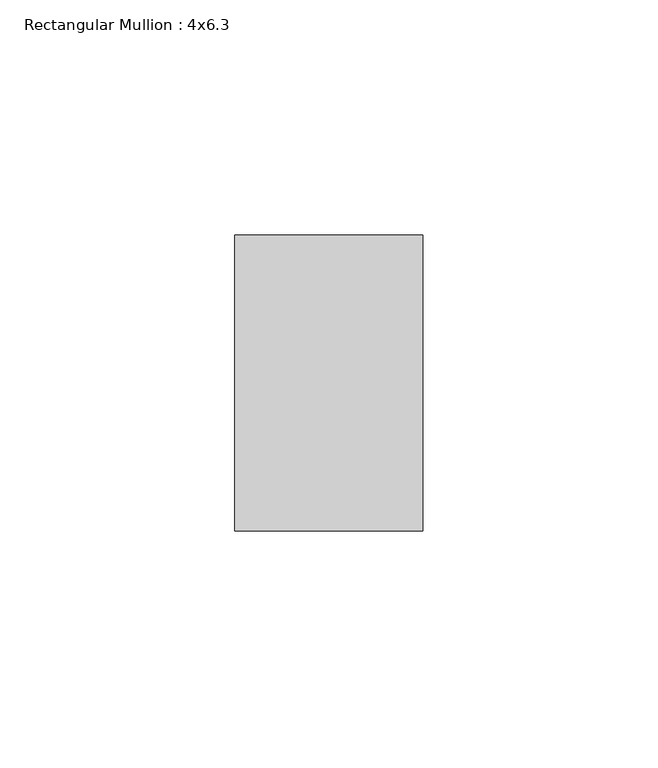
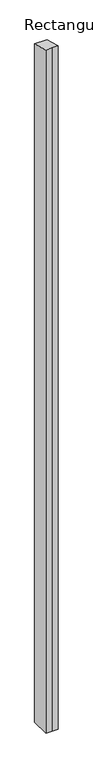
"""IFC4 building model written with IfcOpenShell, lengths in millimetres: member geometry, Rectangular Mullion : 4x6.3."""

import ifcopenshell
import ifcopenshell.guid

model = None  # the IFC model being written
_history = None  # IfcOwnerHistory: only IFC2X3 demands one
_inside = {}  # id of a spatial element -> (the spatial element, [elements in it])
_under = {}  # id of a project, library or spatial element -> (it, [spatial elements below it])
_declared = {}  # id of a project -> (the project, [libraries it declares])
_typed = {}  # id of a type object -> (the type object, [elements of that type])
_made_of = {}  # id of a material, layer set ... -> (it, [elements and type objects made of it])


def new_model(schema):
    """Start an empty IFC model of exactly this schema.

    Asked for "IFC4X3", IfcOpenShell would pick the latest addendum, in which some entities
    have other attributes; the version numbers below select the first issue.
    IFC2X3 requires an IfcOwnerHistory on every rooted entity: one is made here for all.
    """
    global model, _history
    if schema == "IFC4X3":
        model = ifcopenshell.file(schema_version=(4, 3, 0, 0))
    else:
        model = ifcopenshell.file(schema=schema)
    _inside.clear()
    _under.clear()
    _declared.clear()
    _typed.clear()
    _made_of.clear()
    _history = None
    if model.schema == "IFC2X3":
        org = make("IfcOrganization", Name="unknown")
        user = make(
            "IfcPersonAndOrganization",
            ThePerson=make("IfcPerson", FamilyName="unknown"),
            TheOrganization=org,
        )
        app = make(
            "IfcApplication",
            ApplicationDeveloper=org,
            Version="unknown",
            ApplicationFullName="unknown",
            ApplicationIdentifier="unknown",
        )
        _history = make(
            "IfcOwnerHistory",
            OwningUser=user,
            OwningApplication=app,
            ChangeAction="ADDED",
            CreationDate=0,
        )
    return model


def make(cls, **values):
    """One entity of the class cls with the attributes given. An attribute that is None is left unset."""
    return model.create_entity(
        cls, **{name: value for name, value in values.items() if value is not None}
    )


def rooted(cls, **values):
    """An entity with a GlobalId (a new one), such as an element, a storey or a relation."""
    return make(cls, GlobalId=ifcopenshell.guid.new(), OwnerHistory=_history, **values)


def si_unit(unit_type, name, prefix=None):
    """IfcSIUnit, for example si_unit("LENGTHUNIT", "METRE", prefix="MILLI")."""
    return make("IfcSIUnit", UnitType=unit_type, Prefix=prefix, Name=name)


def assignment(units):
    """IfcUnitAssignment: the units of a project."""
    return None if units is None else make("IfcUnitAssignment", Units=units)


def point(xyz):
    """IfcCartesianPoint."""
    return None if xyz is None else make("IfcCartesianPoint", Coordinates=xyz)


def direction(xyz):
    """IfcDirection."""
    return None if xyz is None else make("IfcDirection", DirectionRatios=xyz)


def frame(location, z_axis=None, x_axis=None):
    """IfcAxis2Placement3D, a coordinate frame: its origin and axes. An axis left out is left unset."""
    return make(
        "IfcAxis2Placement3D",
        Location=point(location),
        Axis=direction(z_axis),
        RefDirection=direction(x_axis),
    )


def origin():
    """The frame at (0, 0, 0) with its axes left unset."""
    return frame((0.0, 0.0, 0.0))


def place(relative_to, where):
    """IfcLocalPlacement: puts the frame where relative to a parent placement (None: the world)."""
    return make(
        "IfcLocalPlacement", PlacementRelTo=relative_to, RelativePlacement=where
    )


def context(
    kind, dimensions, precision=None, world=None, true_north=None, identifier=None
):
    """IfcGeometricRepresentationContext, for example the 3D "Model" context."""
    return make(
        "IfcGeometricRepresentationContext",
        ContextIdentifier=identifier,
        ContextType=kind,
        CoordinateSpaceDimension=dimensions,
        Precision=precision,
        WorldCoordinateSystem=world,
        TrueNorth=true_north,
    )


def project(units=None, contexts=None):
    """IfcProject with its units and contexts."""
    return rooted(
        "IfcProject",
        Name="project",
        RepresentationContexts=contexts,
        UnitsInContext=assignment(units),
    )


def spatial(cls, under=None, at=None, **own):
    """A site, building, storey or space (cls), placed at a placement, below another one or the project."""
    s = rooted(cls, ObjectPlacement=at, **own)
    if under is not None:
        _under.setdefault(under.id(), (under, []))[1].append(s)
    return s


def faces_of(points, faces, orient=None, outer=None):
    """IfcFace entities. A face is a list of loops; a loop is a list of indices into points, from 0.

    orient and outer hold one flag for each loop. By default every Orientation is true, the
    first loop of a face is its IfcFaceOuterBound and the others are IfcFaceBound.
    """
    made = []
    for i, loops in enumerate(faces):
        bounds = []
        for j, loop in enumerate(loops):
            is_outer = j == 0 if outer is None else outer[i][j]
            bounds.append(
                make(
                    "IfcFaceOuterBound" if is_outer else "IfcFaceBound",
                    Bound=make("IfcPolyLoop", Polygon=[points[k] for k in loop]),
                    Orientation=True if orient is None else orient[i][j],
                )
            )
        made.append(make("IfcFace", Bounds=bounds))
    return made


def faceted_brep(points, faces, orient=None, outer=None, voids=None):
    """IfcFacetedBrep: a solid bounded by flat faces; with voids (closed shells), ...WithVoids."""
    shared = [point(p) for p in points]
    hull = make("IfcClosedShell", CfsFaces=faces_of(shared, faces, orient, outer))
    if voids is None:
        return make("IfcFacetedBrep", Outer=hull)
    return make(
        "IfcFacetedBrepWithVoids",
        Outer=hull,
        Voids=[
            make(cls, CfsFaces=faces_of(shared, fs, o, b)) for cls, fs, o, b in voids
        ],
    )


def shape(context_of_items, identifier, shape_type, items):
    """IfcShapeRepresentation: the items that make up one representation, for example the "Body"."""
    return make(
        "IfcShapeRepresentation",
        ContextOfItems=context_of_items,
        RepresentationIdentifier=identifier,
        RepresentationType=shape_type,
        Items=items,
    )


def source(mapping_origin, context_of_items, identifier, shape_type, items):
    """IfcRepresentationMap: a shape defined once, which mapped items show again and again."""
    return make(
        "IfcRepresentationMap",
        MappingOrigin=mapping_origin,
        MappedRepresentation=shape(context_of_items, identifier, shape_type, items),
    )


def transform(
    local_origin,
    x_axis=None,
    y_axis=None,
    z_axis=None,
    scale=None,
    scale2=None,
    scale3=None,
    uniform=True,
):
    """IfcCartesianTransformationOperator3D, or its non-uniform kind. x_axis, y_axis, z_axis: its Axis1, 2, 3."""
    if uniform:
        return make(
            "IfcCartesianTransformationOperator3D",
            Axis1=direction(x_axis),
            Axis2=direction(y_axis),
            LocalOrigin=point(local_origin),
            Scale=scale,
            Axis3=direction(z_axis),
        )
    return make(
        "IfcCartesianTransformationOperator3DnonUniform",
        Axis1=direction(x_axis),
        Axis2=direction(y_axis),
        LocalOrigin=point(local_origin),
        Scale=scale,
        Axis3=direction(z_axis),
        Scale2=scale2,
        Scale3=scale3,
    )


def mapped(mapping_source, mapping_target):
    """IfcMappedItem: shows the shape of a source again, moved by a transform."""
    return make(
        "IfcMappedItem", MappingSource=mapping_source, MappingTarget=mapping_target
    )


def made_of(thing, what):
    """Note that an element or type object is made of a material, layer set ...; save() writes the relation."""
    if what is not None:
        _made_of.setdefault(what.id(), (what, []))[1].append(thing)
    return thing


def element(
    cls,
    number,
    at=None,
    inside=None,
    cuts=None,
    type_object=None,
    material=None,
    context=None,
    identifier="Body",
    shape_type=None,
    held_by="IfcProductDefinitionShape",
    body=None,
    shapes=None,
    **own,
):
    """One element of the class cls, such as IfcWall. Its Tag is "e" and its number.

    at: its placement. inside: the storey or other place that contains it. cuts: it is an
    opening in that element (IfcRelVoidsElement). A single representation is given by context,
    identifier, shape_type and body (its items); several are given by shapes. held_by: the class
    of the entity that holds the representations. save() writes the other relations.
    """
    e = rooted(cls, Tag="e%d" % number, ObjectPlacement=at, **own)
    if body is not None:
        shapes = [shape(context, identifier, shape_type, body)]
    if shapes is not None:
        e.Representation = make(held_by, Representations=shapes)
    if inside is not None:
        _inside.setdefault(inside.id(), (inside, []))[1].append(e)
    if cuts is not None:
        rooted(
            "IfcRelVoidsElement", RelatingBuildingElement=cuts, RelatedOpeningElement=e
        )
    if type_object is not None:
        _typed.setdefault(type_object.id(), (type_object, []))[1].append(e)
    return made_of(e, material)


def aggregate(whole, parts):
    """IfcRelAggregates: a whole, such as a stair, and the parts it consists of."""
    return rooted("IfcRelAggregates", RelatingObject=whole, RelatedObjects=parts)


def save(model, path):
    """Write the relations noted so far, then the file.

    IfcRelAggregates (storeys below a building ...), IfcRelContainedInSpatialStructure (elements
    in a storey), IfcRelDefinesByType, IfcRelAssociatesMaterial and IfcRelDeclares: one each for
    every whole, place, type object, material and project.
    """
    for whole, parts in _under.values():
        aggregate(whole, parts)
    for where, things in _inside.values():
        rooted(
            "IfcRelContainedInSpatialStructure",
            RelatedElements=things,
            RelatingStructure=where,
        )
    for kind, things in _typed.values():
        rooted("IfcRelDefinesByType", RelatedObjects=things, RelatingType=kind)
    for what, things in _made_of.values():
        rooted("IfcRelAssociatesMaterial", RelatedObjects=things, RelatingMaterial=what)
    for by, libraries in _declared.values():
        rooted("IfcRelDeclares", RelatingContext=by, RelatedDefinitions=libraries)
    model.write(path)


def rectangular_mullion_4x6_3_7cecc412(model_context):
    return source(origin(), model_context, "Body", "Brep", [
        faceted_brep([(-20.0, 20.0, -2367.8603404), (-20.0, 83.0, -2367.8603404), (20.0, 83.0, -2367.8603404), (20.0, 20.0, -2367.8603404), (0.0, 20.0, -2367.8603404), (0.0, 20.0, -5.4283368), (-20.0, 20.0, -5.4283368), (20.0, 20.0, -5.4283368), (20.0, 83.0, -22.5275978), (-20.0, 83.0, -22.5275978)], [[[0, 1, 2, 3, 4]], [[5, 6, 0, 4]], [[7, 5, 4, 3]], [[8, 7, 3, 2]], [[9, 8, 2, 1]], [[6, 9, 1, 0]], [[6, 5, 7, 8, 9]]]),
    ])


if __name__ == "__main__":
    model = new_model("IFC4")
    model_context = context("Model", 3, world=origin())
    ifc_project = project(units=[si_unit("LENGTHUNIT", "METRE", prefix="MILLI")], contexts=[model_context])
    site = spatial("IfcSite", under=ifc_project)
    building = spatial("IfcBuilding", under=site)
    placement = place(None, origin())
    rectangular_mullion_4x6_3_shape = rectangular_mullion_4x6_3_7cecc412(model_context)
    element("IfcMember", 1, ObjectType="Rectangular Mullion : 4x6.3", at=placement, inside=building, context=model_context, shape_type="MappedRepresentation", body=[
        mapped(rectangular_mullion_4x6_3_shape, transform((0.0, 0.0, 0.0), x_axis=(1.0, 0.0, 0.0), y_axis=(0.0, 1.0, 0.0), z_axis=(0.0, 0.0, 1.0))),
    ])
    save(model, "model.ifc")
